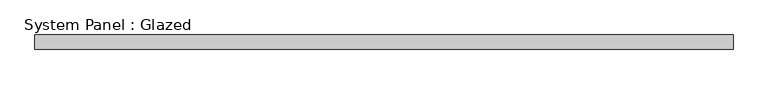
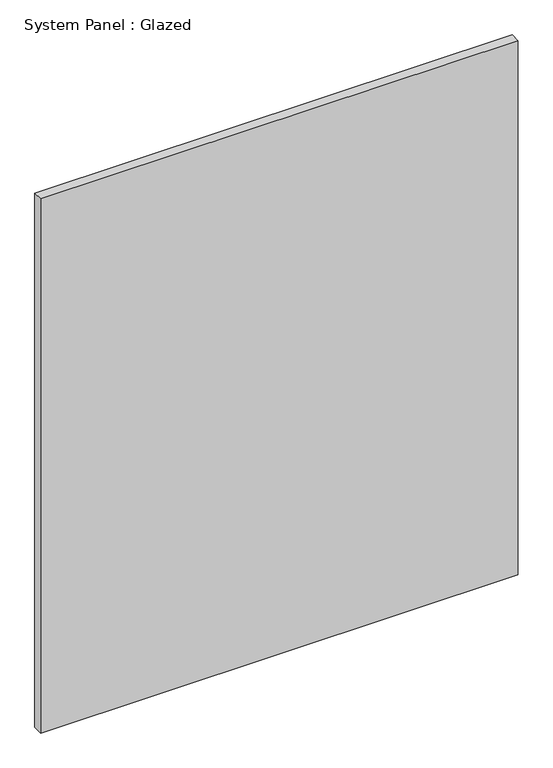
"""IFC4 building model written with IfcOpenShell, lengths in millimetres: plate geometry, System Panel : Glazed."""

from ifc_helpers import new_model, si_unit, origin, origin_with_axes, place, context, project, spatial, polyline, outline, extrude, source, transform, mapped, element, save


def system_panel_glazed_08fbef77(model_context):
    return source(origin(), model_context, "Body", "SweptSolid", [
        extrude(outline(polyline([(609.6, 19.05), (-609.6, 19.05), (-609.6, 44.45), (609.6, 44.45), (609.6, 19.05)])), origin_with_axes(), (0.0, 0.0, 1.0), 1441.8416906),
    ])


if __name__ == "__main__":
    model = new_model("IFC4")
    model_context = context("Model", 3, world=origin())
    ifc_project = project(units=[si_unit("LENGTHUNIT", "METRE", prefix="MILLI")], contexts=[model_context])
    site = spatial("IfcSite", under=ifc_project)
    building = spatial("IfcBuilding", under=site)
    placement = place(None, origin())
    system_panel_glazed_shape = system_panel_glazed_08fbef77(model_context)
    element("IfcPlate", 1, ObjectType="System Panel : Glazed", at=placement, inside=building, context=model_context, shape_type="MappedRepresentation", body=[
        mapped(system_panel_glazed_shape, transform((0.0, 0.0, 0.0), x_axis=(1.0, 0.0, 0.0), y_axis=(0.0, 1.0, 0.0), z_axis=(0.0, 0.0, 1.0))),
    ])
    save(model, "model.ifc")
